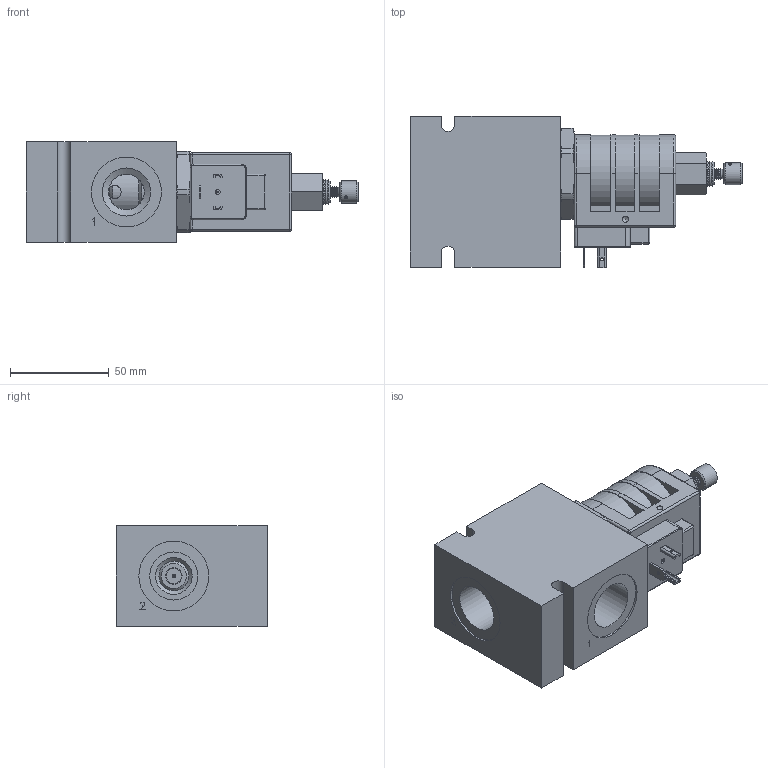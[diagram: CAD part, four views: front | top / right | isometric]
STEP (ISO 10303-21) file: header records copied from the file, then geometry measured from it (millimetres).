
FILE_DESCRIPTION( ( 'Unknown' ), '1' );
FILE_NAME( 'G:/Graphic Design/Graphic Design 2/Data Sheets/SOLENOID OPERATED VALVES/4_STEP/2W2P Normally Open/SJ-S2D0M-D2.stp', 'Unknown', ( 'Unknown' ), ( 'Unknown' ), 'PSStep 15.0.49', 'Unknown', ' ' );
FILE_SCHEMA( ( 'AUTOMOTIVE_DESIGN { 1 0 10303 214 1 1 1 1 }' ) );
Length unit declared in the file: millimetre
Products named in the file (18): D-SJ-S2C-0K; SJS2C0K-3D Full1; SJS2C0K-3D Full2; SJS2C0K-3D Full3; SJS2C0K-3D Full4; SJS2C0K-3D Full5; SJS2C0K-3D Full6; Delta_1_2_nut_LONG1; D-DHC12_24; DHC-Body; DHC-Disc; DHC-Disc-oa0; PT-EL-HC-TerminalConnectors; Assem1; B-DSJD2
Assembly tree (17 placements, depth 3):
  Assem1
    B-DSJD2
    D-DHC12_24
      DHC-Body
      DHC-Disc
      DHC-Disc-oa0
      PT-EL-HC-TerminalConnectors
      PT-EL-HC-TerminalConnectors
      PT-EL-HC-TerminalConnectors
      PT-EL-HC-TerminalConnectors
    D-SJ-S2C-0K
      SJS2C0K-3D Full1
      SJS2C0K-3D Full2
      SJS2C0K-3D Full3
      SJS2C0K-3D Full4
      SJS2C0K-3D Full5
      SJS2C0K-3D Full6
      Delta_1_2_nut_LONG1
Bounding box: 167.92 x 76.4 x 50.8 mm (x, y, z)
Volume: 356805.1 mm3; surface area: 74840.8 mm2
Topology: 15 solids, 15 shells, 719 faces, 1815 edges, 1167 vertices
Faces by surface type: plane 337, cone 129, extrusion 118, cylinder 112, torus 17, sphere 6
Full cylindrical faces by diameter (mm): 0.2 x2, 0.813 x1, 1 x1, 1.5 x3, 1.613 x2, 2.5 x1, 3 x2, 6.756 x6, 7.899 x2, 8.382 x1, 10.998 x1, 11.1 x1, 11.176 x1, 12.675 x1, 12.7 x2, 13 x1, 13.3 x1, 14.986 x1, 16.002 x1, 18 x1, 18.796 x1, 19.094 x1, 24.054 x1, 24.105 x1, 24.3 x4, 25.4 x2, 26.924 x1, 28.423 x1, 28.524 x2, 28.651 x1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
Entity records: 28515 total; most frequent: CARTESIAN_POINT 6655, ORIENTED_EDGE 3248, DIRECTION 2871, EDGE_CURVE 1624, VERTEX_POINT 1138, AXIS2_PLACEMENT_3D 970, EDGE_LOOP 956, VECTOR 931
